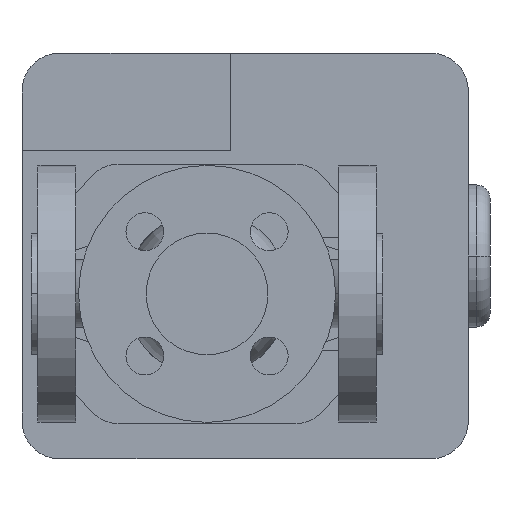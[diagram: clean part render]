
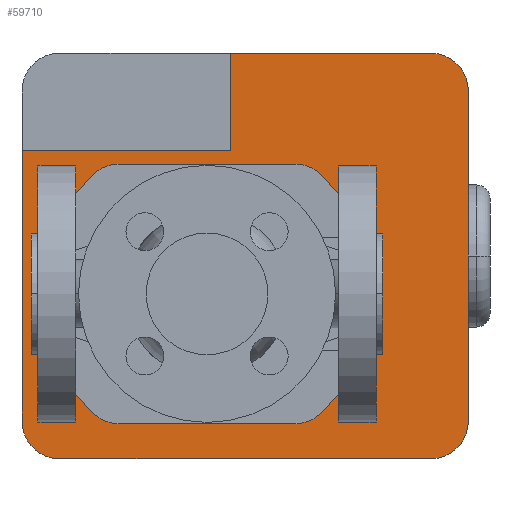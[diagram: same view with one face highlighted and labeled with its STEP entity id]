
A CAD part, front view. The second image highlights one B-rep face of the part: STEP entity #59710.
In plain terms, the highlighted planar face has unit normal (0, -1, 0).
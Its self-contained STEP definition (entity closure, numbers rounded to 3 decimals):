
#51450=CARTESIAN_POINT('',(124.96,498.,11.216));
#51460=VERTEX_POINT('',#51450);
#51490=CARTESIAN_POINT('',(115.,498.,0.));
#51500=DIRECTION('',(0.,1.,0.));
#51510=DIRECTION('',(0.,0.,1.));
#51520=AXIS2_PLACEMENT_3D('',#51490,#51500,#51510);
#51530=CIRCLE('',#51520,15.);
#51540=CARTESIAN_POINT('',(124.96,498.,-11.216));
#51550=VERTEX_POINT('',#51540);
#51560=EDGE_CURVE('',#51460,#51550,#51530,.T.);
#54280=CARTESIAN_POINT('',(107.116,498.,44.128));
#54290=VERTEX_POINT('',#54280);
#54320=CARTESIAN_POINT('',(65.,498.,0.));
#54330=DIRECTION('',(0.,1.,0.));
#54340=DIRECTION('',(0.69,0.,0.723));
#54350=AXIS2_PLACEMENT_3D('',#54320,#54330,#54340);
#54360=CIRCLE('',#54350,61.);
#54370=EDGE_CURVE('',#54290,#51460,#54360,.T.);
#54760=CARTESIAN_POINT('',(5.04,498.,-11.216));
#54770=VERTEX_POINT('',#54760);
#54800=CARTESIAN_POINT('',(15.,498.,0.));
#54810=DIRECTION('',(0.,1.,0.));
#54820=DIRECTION('',(0.,0.,-1.));
#54830=AXIS2_PLACEMENT_3D('',#54800,#54810,#54820);
#54840=CIRCLE('',#54830,15.);
#54850=CARTESIAN_POINT('',(5.04,498.,11.216));
#54860=VERTEX_POINT('',#54850);
#54870=EDGE_CURVE('',#54770,#54860,#54840,.T.);
#55860=CARTESIAN_POINT('',(22.884,498.,-44.128));
#55870=VERTEX_POINT('',#55860);
#55900=CARTESIAN_POINT('',(65.,498.,0.));
#55910=DIRECTION('',(0.,1.,0.));
#55920=DIRECTION('',(-0.69,0.,-0.723));
#55930=AXIS2_PLACEMENT_3D('',#55900,#55910,#55920);
#55940=CIRCLE('',#55930,61.);
#55950=EDGE_CURVE('',#55870,#54770,#55940,.T.);
#58170=CARTESIAN_POINT('',(65.,498.,0.));
#58180=DIRECTION('',(0.,1.,0.));
#58190=DIRECTION('',(0.,0.,1.));
#58200=AXIS2_PLACEMENT_3D('',#58170,#58180,#58190);
#58210=PLANE('',#58200);
#58220=ORIENTED_EDGE('',*,*,#54370,.T.);
#58230=CARTESIAN_POINT('',(97.45,498.,34.));
#58240=DIRECTION('',(0.,1.,0.));
#58250=DIRECTION('',(0.,0.,1.));
#58260=AXIS2_PLACEMENT_3D('',#58230,#58240,#58250);
#58270=CIRCLE('',#58260,14.);
#58280=CARTESIAN_POINT('',(97.45,498.,48.));
#58290=VERTEX_POINT('',#58280);
#58300=EDGE_CURVE('',#58290,#54290,#58270,.T.);
#58310=ORIENTED_EDGE('',*,*,#58300,.T.);
#58320=CARTESIAN_POINT('',(48.775,498.,48.));
#58330=DIRECTION('',(1.,0.,0.));
#58340=VECTOR('',#58330,1.);
#58350=LINE('',#58320,#58340);
#58360=CARTESIAN_POINT('',(32.55,498.,48.));
#58370=VERTEX_POINT('',#58360);
#58380=EDGE_CURVE('',#58370,#58290,#58350,.T.);
#58390=ORIENTED_EDGE('',*,*,#58380,.T.);
#58400=CARTESIAN_POINT('',(32.55,498.,34.));
#58410=DIRECTION('',(0.,1.,0.));
#58420=DIRECTION('',(-0.69,0.,0.723));
#58430=AXIS2_PLACEMENT_3D('',#58400,#58410,#58420);
#58440=CIRCLE('',#58430,14.);
#58450=CARTESIAN_POINT('',(22.884,498.,44.128));
#58460=VERTEX_POINT('',#58450);
#58470=EDGE_CURVE('',#58460,#58370,#58440,.T.);
#58480=ORIENTED_EDGE('',*,*,#58470,.T.);
#58490=CARTESIAN_POINT('',(65.,498.,0.));
#58500=DIRECTION('',(0.,1.,0.));
#58510=DIRECTION('',(-0.69,0.,-0.723));
#58520=AXIS2_PLACEMENT_3D('',#58490,#58500,#58510);
#58530=CIRCLE('',#58520,61.);
#58540=EDGE_CURVE('',#54860,#58460,#58530,.T.);
#58550=ORIENTED_EDGE('',*,*,#58540,.T.);
#58560=ORIENTED_EDGE('',*,*,#54870,.T.);
#58570=ORIENTED_EDGE('',*,*,#55950,.T.);
#58580=CARTESIAN_POINT('',(32.55,498.,-34.));
#58590=DIRECTION('',(0.,1.,0.));
#58600=DIRECTION('',(0.,0.,-1.));
#58610=AXIS2_PLACEMENT_3D('',#58580,#58590,#58600);
#58620=CIRCLE('',#58610,14.);
#58630=CARTESIAN_POINT('',(32.55,498.,-48.));
#58640=VERTEX_POINT('',#58630);
#58650=EDGE_CURVE('',#58640,#55870,#58620,.T.);
#58660=ORIENTED_EDGE('',*,*,#58650,.T.);
#58670=CARTESIAN_POINT('',(81.225,498.,-48.));
#58680=DIRECTION('',(-1.,0.,0.));
#58690=VECTOR('',#58680,1.);
#58700=LINE('',#58670,#58690);
#58710=CARTESIAN_POINT('',(97.45,498.,-48.));
#58720=VERTEX_POINT('',#58710);
#58730=EDGE_CURVE('',#58720,#58640,#58700,.T.);
#58740=ORIENTED_EDGE('',*,*,#58730,.T.);
#58750=CARTESIAN_POINT('',(97.45,498.,-34.));
#58760=DIRECTION('',(0.,1.,0.));
#58770=DIRECTION('',(0.69,0.,-0.723));
#58780=AXIS2_PLACEMENT_3D('',#58750,#58760,#58770);
#58790=CIRCLE('',#58780,14.);
#58800=CARTESIAN_POINT('',(107.116,498.,-44.128));
#58810=VERTEX_POINT('',#58800);
#58820=EDGE_CURVE('',#58810,#58720,#58790,.T.);
#58830=ORIENTED_EDGE('',*,*,#58820,.T.);
#58840=CARTESIAN_POINT('',(65.,498.,0.));
#58850=DIRECTION('',(0.,1.,0.));
#58860=DIRECTION('',(0.69,0.,0.723));
#58870=AXIS2_PLACEMENT_3D('',#58840,#58850,#58860);
#58880=CIRCLE('',#58870,61.);
#58890=EDGE_CURVE('',#51550,#58810,#58880,.T.);
#58900=ORIENTED_EDGE('',*,*,#58890,.T.);
#58910=ORIENTED_EDGE('',*,*,#51560,.T.);
#58920=EDGE_LOOP('',(#58910,#58900,#58830,#58740,#58660,#58570,#58560,
#58550,#58480,#58390,#58310,#58220));
#58930=FACE_BOUND('',#58920,.T.);
#58940=CARTESIAN_POINT('',(73.6,498.,26.5));
#58950=DIRECTION('',(0.,0.,-1.));
#58960=VECTOR('',#58950,1.);
#58970=LINE('',#58940,#58960);
#58980=CARTESIAN_POINT('',(73.6,498.,89.));
#58990=VERTEX_POINT('',#58980);
#59000=CARTESIAN_POINT('',(73.6,498.,53.));
#59010=VERTEX_POINT('',#59000);
#59020=EDGE_CURVE('',#58990,#59010,#58970,.T.);
#59030=ORIENTED_EDGE('',*,*,#59020,.T.);
#59040=CARTESIAN_POINT('',(10.6,498.,89.));
#59050=DIRECTION('',(1.,0.,0.));
#59060=VECTOR('',#59050,1.);
#59070=LINE('',#59040,#59060);
#59080=CARTESIAN_POINT('',(147.6,498.,89.));
#59090=VERTEX_POINT('',#59080);
#59100=EDGE_CURVE('',#58990,#59090,#59070,.T.);
#59110=ORIENTED_EDGE('',*,*,#59100,.F.);
#59120=CARTESIAN_POINT('',(147.6,498.,75.));
#59130=DIRECTION('',(0.,1.,0.));
#59140=DIRECTION('',(0.,0.,1.));
#59150=AXIS2_PLACEMENT_3D('',#59120,#59130,#59140);
#59160=CIRCLE('',#59150,14.);
#59170=CARTESIAN_POINT('',(161.6,498.,75.));
#59180=VERTEX_POINT('',#59170);
#59190=EDGE_CURVE('',#59090,#59180,#59160,.T.);
#59200=ORIENTED_EDGE('',*,*,#59190,.F.);
#59210=CARTESIAN_POINT('',(161.6,498.,75.));
#59220=DIRECTION('',(0.,0.,-1.));
#59230=VECTOR('',#59220,1.);
#59240=LINE('',#59210,#59230);
#59250=CARTESIAN_POINT('',(161.6,498.,-47.));
#59260=VERTEX_POINT('',#59250);
#59270=EDGE_CURVE('',#59180,#59260,#59240,.T.);
#59280=ORIENTED_EDGE('',*,*,#59270,.F.);
#59290=CARTESIAN_POINT('',(147.6,498.,-47.));
#59300=DIRECTION('',(0.,1.,0.));
#59310=DIRECTION('',(1.,0.,0.));
#59320=AXIS2_PLACEMENT_3D('',#59290,#59300,#59310);
#59330=CIRCLE('',#59320,14.);
#59340=CARTESIAN_POINT('',(147.6,498.,-61.));
#59350=VERTEX_POINT('',#59340);
#59360=EDGE_CURVE('',#59260,#59350,#59330,.T.);
#59370=ORIENTED_EDGE('',*,*,#59360,.F.);
#59380=CARTESIAN_POINT('',(147.6,498.,-61.));
#59390=DIRECTION('',(-1.,0.,0.));
#59400=VECTOR('',#59390,1.);
#59410=LINE('',#59380,#59400);
#59420=CARTESIAN_POINT('',(10.6,498.,-61.));
#59430=VERTEX_POINT('',#59420);
#59440=EDGE_CURVE('',#59350,#59430,#59410,.T.);
#59450=ORIENTED_EDGE('',*,*,#59440,.F.);
#59460=CARTESIAN_POINT('',(10.6,498.,-47.));
#59470=DIRECTION('',(0.,1.,0.));
#59480=DIRECTION('',(0.,0.,-1.));
#59490=AXIS2_PLACEMENT_3D('',#59460,#59470,#59480);
#59500=CIRCLE('',#59490,14.);
#59510=CARTESIAN_POINT('',(-3.4,498.,-47.));
#59520=VERTEX_POINT('',#59510);
#59530=EDGE_CURVE('',#59430,#59520,#59500,.T.);
#59540=ORIENTED_EDGE('',*,*,#59530,.F.);
#59550=CARTESIAN_POINT('',(-3.4,498.,-47.));
#59560=DIRECTION('',(0.,0.,1.));
#59570=VECTOR('',#59560,1.);
#59580=LINE('',#59550,#59570);
#59590=CARTESIAN_POINT('',(-3.4,498.,53.));
#59600=VERTEX_POINT('',#59590);
#59610=EDGE_CURVE('',#59520,#59600,#59580,.T.);
#59620=ORIENTED_EDGE('',*,*,#59610,.F.);
#59630=CARTESIAN_POINT('',(30.3,498.,53.));
#59640=DIRECTION('',(-1.,0.,0.));
#59650=VECTOR('',#59640,1.);
#59660=LINE('',#59630,#59650);
#59670=EDGE_CURVE('',#59010,#59600,#59660,.T.);
#59680=ORIENTED_EDGE('',*,*,#59670,.T.);
#59690=EDGE_LOOP('',(#59680,#59620,#59540,#59450,#59370,#59280,#59200,
#59110,#59030));
#59700=FACE_OUTER_BOUND('',#59690,.T.);
#59710=ADVANCED_FACE('',(#58930,#59700),#58210,.F.);
